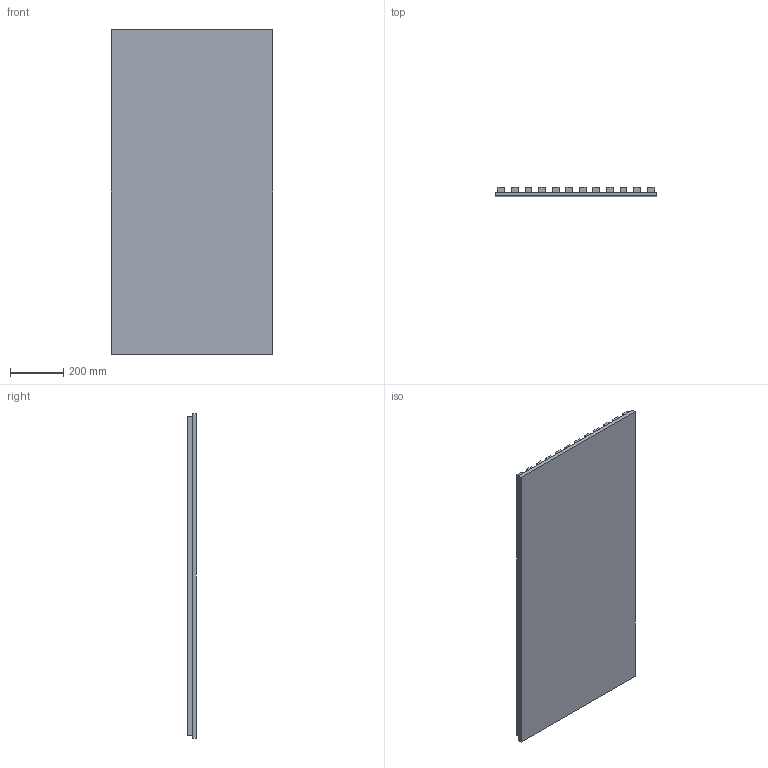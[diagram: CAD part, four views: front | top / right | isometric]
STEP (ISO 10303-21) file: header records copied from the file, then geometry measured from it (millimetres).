
FILE_DESCRIPTION(/* description */ (''),/* implementation_level */ '2;1');
FILE_NAME(/* name */ 'Y:\Design and Engineering\MaterialLogiq\CAD ASSETS\MASTER\SLATTA\PARAMETRIC\Slatta_Tile_2x4_0.75_Long.stp',/* time_stamp */ '2024-03-19T10:17:04-05:00',/* author */ ('Grant Baker'),/* organization */ (''),/* preprocessor_version */ 'ST-DEVELOPER v19',/* originating_system */ 'Autodesk Inventor 2023',/* authorisation */ '');
FILE_SCHEMA (('AUTOMOTIVE_DESIGN { 1 0 10303 214 3 1 1 }'));
Length unit declared in the file: inch
Products named in the file (3): Slatta_Tile_Parametric; Slatta_Tile - Backer; Slatta_Tile - Slat
Assembly tree (13 placements, depth 2):
  Slatta_Tile_Parametric
    Slatta_Tile - Backer
    Slatta_Tile - Slat  x12
Bounding box: 603.25 x 31.75 x 1212.85 mm (x, y, z)
Volume: 16223705.5 mm3; surface area: 2794591.2 mm2
Topology: 13 solids, 13 shells, 78 faces, 156 edges, 104 vertices
Faces by surface type: plane 78
Entity records: 505 total; most frequent: DIRECTION 80, CARTESIAN_POINT 68, ORIENTED_EDGE 48, AXIS2_PLACEMENT_3D 28, LINE 24, VECTOR 24, EDGE_CURVE 24, VERTEX_POINT 16
